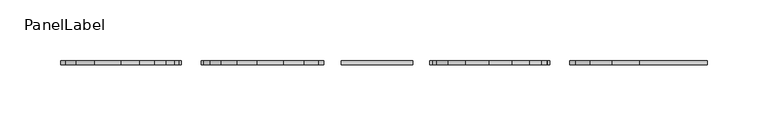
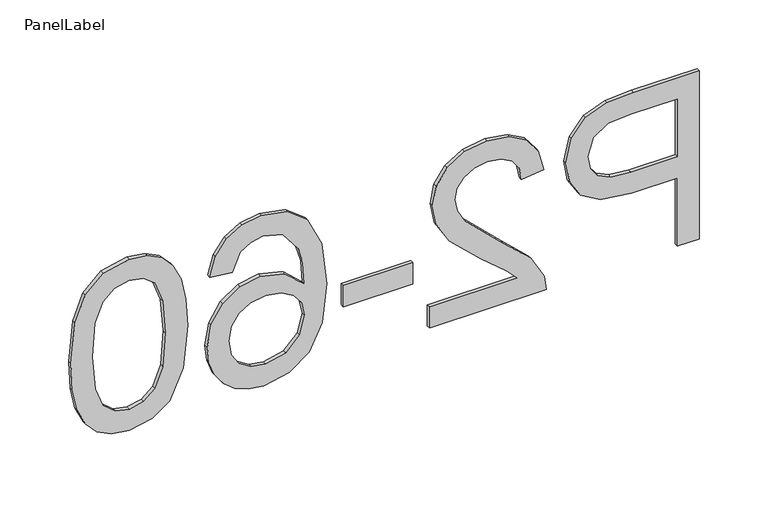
"""IFC4 building model written with IfcOpenShell, lengths in millimetres: fastener geometry, PanelLabel : Miranda."""

from ifc_helpers import new_model, si_unit, frame, origin, place, context, project, spatial, polyline, outline, extrude, source, transform, mapped, element, save


def panellabel_b67d6c40(model_context):
    return source(origin(), model_context, "Body", "SweptSolid", [
        extrude(outline(polyline([(1310.9113766, 260.2523077), (1460.9667612, 260.2523077), (1460.9667612, 204.6409615), (1459.5380112, 182.2205769), (1452.5224823, 163.9948558), (1438.0151747, 152.1801923), (1417.554742, 147.7107692), (1399.8693814, 150.7285457), (1385.1331073, 159.781875), (1375.1868093, 176.7116466), (1371.8713766, 203.35875), (1371.8713766, 241.4953846), (1310.9113766, 241.4953846), (1310.9113766, 260.2523077)]), holes=[polyline([(1390.6282997, 241.4953846), (1390.6282997, 202.2597115), (1392.3501266, 185.6275962), (1397.5156073, 174.6372115), (1405.8041891, 168.5100721), (1416.8953189, 166.4676923), (1432.4283958, 171.2851442), (1440.9276266, 183.9424038), (1442.2098381, 202.6993269), (1442.2098381, 241.4953846), (1390.6282997, 241.4953846)])]), frame((0.0, 60.325, 0.0), z_axis=(0.0, 1.0, 0.0), x_axis=(0.0, 0.0, 1.0)), (0.0, 0.0, 1.0), 3.175),
        extrude(outline(polyline([(1329.6682997, 32.8246154), (1310.9113766, 32.8246154), (1310.9113766, 131.2984615), (1323.8433958, 129.2835577), (1343.7543093, 117.8901923), (1365.4969535, 94.4074038), (1396.7462804, 62.0224038), (1407.5168573, 55.9502163), (1417.9943573, 53.9261538), (1427.3865569, 55.8357332), (1435.1943093, 61.5644712), (1440.4559559, 70.3705168), (1442.2098381, 81.5120192), (1440.4971698, 93.2121995), (1435.359165, 102.3021635), (1427.1988045, 108.1682813), (1416.4190689, 110.1969231), (1418.7636843, 128.9538462), (1436.9069775, 124.4065745), (1450.1595497, 114.5747596), (1458.2649583, 99.9712861), (1460.9667612, 81.1090385), (1457.9627227, 62.1094111), (1448.9506073, 47.5334135), (1435.4873862, 38.2602764), (1419.1300304, 35.1692308), (1401.3439247, 38.5029808), (1382.9533477, 49.5849519), (1357.254165, 76.4564423), (1339.211617, 98.0342308), (1329.6682997, 106.4968269), (1329.6682997, 32.8246154)])), frame((0.0, 60.325, 0.0), z_axis=(0.0, 1.0, 0.0), x_axis=(0.0, 0.0, 1.0)), (0.0, 0.0, 1.0), 3.175),
        extrude(outline(polyline([(-39.8584615, 63.5), (18.7569231, 63.5), (18.7569231, 60.325), (-39.8584615, 60.325), (-39.8584615, 63.5)])), frame((0.0, 0.0, 1355.4590689), z_axis=(0.0, 0.0, 1.0), x_axis=(1.0, 0.0, 0.0)), (0.0, 0.0, 1.0), 18.7569231),
        extrude(outline(polyline([(1421.1082997, -152.4), (1418.7636843, -133.6430769), (1434.406665, -126.5359615), (1440.2590448, -118.0275721), (1442.2098381, -107.7424038), (1437.6671458, -90.8172115), (1420.6137323, -78.0134135), (1406.6422059, -74.1255649), (1387.1846458, -72.6830769), (1402.1498862, -89.2236058), (1407.0406073, -109.7206731), (1403.6976987, -127.0488462), (1393.6689727, -141.5927885), (1378.3465448, -151.4566587), (1359.1225304, -154.7446154), (1345.6913646, -153.1968029), (1333.2401747, -148.5533654), (1322.6802468, -141.1989663), (1314.922867, -131.5182692), (1310.1557876, -119.9508894), (1308.5667612, -106.9364423), (1312.779742, -85.6563101), (1325.4186843, -68.7082212), (1347.729165, -57.6216707), (1380.9567612, -53.9261538), (1418.3149102, -58.0292308), (1443.8583958, -70.3384615), (1456.6896698, -87.1445913), (1460.9667612, -108.9147115), (1458.3199102, -125.3728125), (1450.3793573, -138.5521154), (1437.767891, -147.7840385), (1421.1082997, -152.4)]), holes=[polyline([(1359.4156073, -72.6830769), (1343.1681554, -77.0242788), (1331.3718093, -88.5641827), (1327.3236843, -105.4710577), (1329.421016, -117.8489784), (1335.7130112, -127.5800481), (1345.6043573, -133.8857812), (1358.499742, -135.9876923), (1370.8776626, -133.9132572), (1380.3156554, -127.6899519), (1386.2916771, -117.7940264), (1388.2836843, -104.7017308), (1386.2916771, -92.3421274), (1380.3156554, -82.0065865), (1371.106629, -75.0139543), (1359.4156073, -72.6830769)])]), frame((0.0, 60.325, 0.0), z_axis=(0.0, 1.0, 0.0), x_axis=(0.0, 0.0, 1.0)), (0.0, 0.0, 1.0), 3.175),
        extrude(outline(polyline([(1384.7301266, -171.1569231), (1408.7486963, -172.5353005), (1427.9040208, -176.6704327), (1442.4891771, -183.5211058), (1452.797242, -193.0461058), (1458.9243814, -205.3141226), (1460.9667612, -220.3938462), (1456.130992, -242.3013462), (1442.1915208, -257.4314423), (1419.9909439, -266.22375), (1384.7301266, -269.6307692), (1360.8489367, -268.2661298), (1341.7394054, -264.1722115), (1327.1405112, -257.3627524), (1316.7912323, -247.8514904), (1310.622879, -235.5559976), (1308.5667612, -220.3938462), (1312.1386362, -200.9042308), (1322.8542612, -186.1038462), (1348.232891, -174.8936538), (1384.7301266, -171.1569231)]), holes=[polyline([(1384.7667612, -189.9138462), (1355.2621578, -192.1119231), (1338.1858477, -198.7061538), (1330.0392251, -208.5242308), (1327.3236843, -220.3938462), (1330.0483838, -232.2634615), (1338.2224823, -242.0815385), (1355.3079511, -248.6757692), (1384.7667612, -250.8738462), (1413.6073622, -248.7490385), (1430.8164727, -242.3746154), (1439.3614968, -232.5748558), (1442.2098381, -220.1740385), (1439.700367, -208.4326442), (1432.1719535, -198.9992308), (1413.8912804, -192.1851923), (1384.7667612, -189.9138462)])]), frame((0.0, 60.325, 0.0), z_axis=(0.0, 1.0, 0.0), x_axis=(0.0, 0.0, 1.0)), (0.0, 0.0, 1.0), 3.175),
    ])


if __name__ == "__main__":
    model = new_model("IFC4")
    model_context = context("Model", 3, world=origin())
    ifc_project = project(units=[si_unit("LENGTHUNIT", "METRE", prefix="MILLI")], contexts=[model_context])
    site = spatial("IfcSite", under=ifc_project)
    building = spatial("IfcBuilding", under=site)
    placement = place(None, origin())
    panellabel_shape = panellabel_b67d6c40(model_context)
    element("IfcFastener", 1, ObjectType="PanelLabel : Miranda", at=placement, inside=building, context=model_context, shape_type="MappedRepresentation", body=[
        mapped(panellabel_shape, transform((0.0, 0.0, 0.0), x_axis=(1.0, 0.0, 0.0), y_axis=(0.0, 1.0, 0.0), z_axis=(0.0, 0.0, 1.0))),
    ])
    save(model, "model.ifc")
